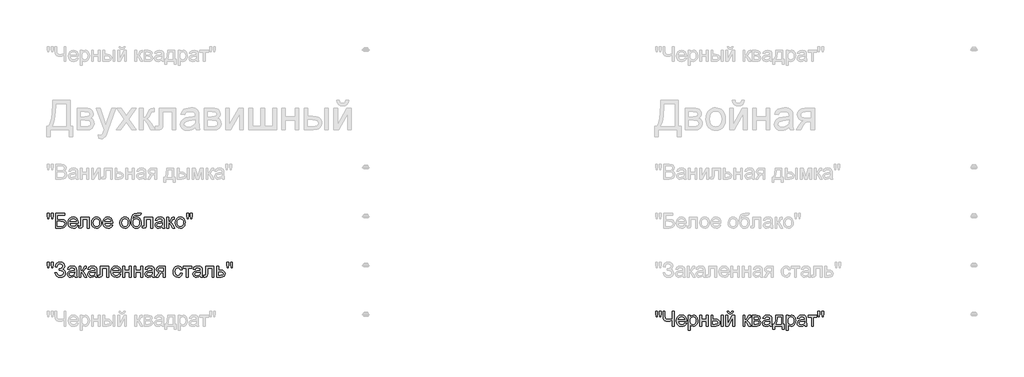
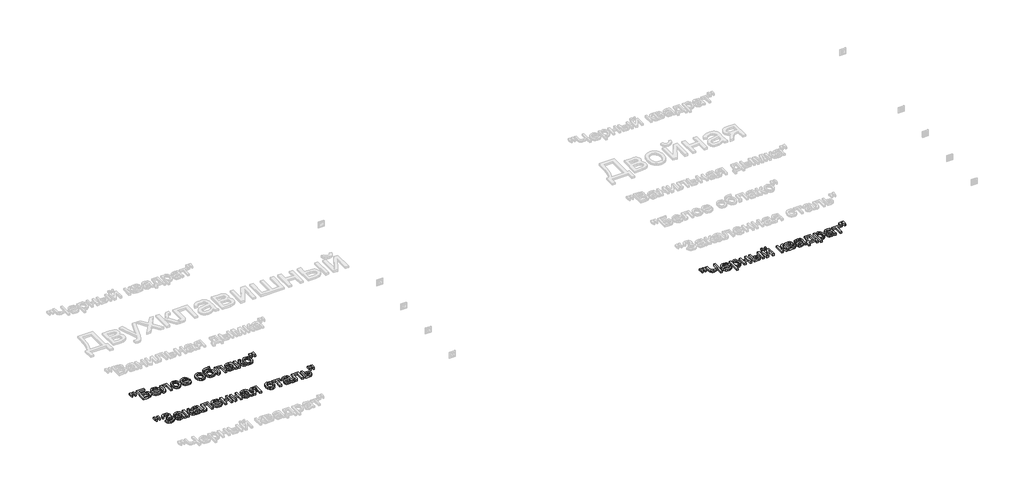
# One storey, part 133 of 168: 3 proxies.
"""IFC4 building model written with IfcOpenShell, lengths in millimetres."""

import ifcopenshell
import ifcopenshell.guid

model = None  # the IFC model being written
_history = None  # IfcOwnerHistory: only IFC2X3 demands one
_inside = {}  # id of a spatial element -> (the spatial element, [elements in it])
_under = {}  # id of a project, library or spatial element -> (it, [spatial elements below it])
_declared = {}  # id of a project -> (the project, [libraries it declares])
_typed = {}  # id of a type object -> (the type object, [elements of that type])
_made_of = {}  # id of a material, layer set ... -> (it, [elements and type objects made of it])


def new_model(schema):
    """Start an empty IFC model of exactly this schema.

    Asked for "IFC4X3", IfcOpenShell would pick the latest addendum, in which some entities
    have other attributes; the version numbers below select the first issue.
    IFC2X3 requires an IfcOwnerHistory on every rooted entity: one is made here for all.
    """
    global model, _history
    if schema == "IFC4X3":
        model = ifcopenshell.file(schema_version=(4, 3, 0, 0))
    else:
        model = ifcopenshell.file(schema=schema)
    _inside.clear()
    _under.clear()
    _declared.clear()
    _typed.clear()
    _made_of.clear()
    _history = None
    if model.schema == "IFC2X3":
        org = make("IfcOrganization", Name="unknown")
        user = make(
            "IfcPersonAndOrganization",
            ThePerson=make("IfcPerson", FamilyName="unknown"),
            TheOrganization=org,
        )
        app = make(
            "IfcApplication",
            ApplicationDeveloper=org,
            Version="unknown",
            ApplicationFullName="unknown",
            ApplicationIdentifier="unknown",
        )
        _history = make(
            "IfcOwnerHistory",
            OwningUser=user,
            OwningApplication=app,
            ChangeAction="ADDED",
            CreationDate=0,
        )
    return model


def make(cls, **values):
    """One entity of the class cls with the attributes given. An attribute that is None is left unset."""
    return model.create_entity(
        cls, **{name: value for name, value in values.items() if value is not None}
    )


def rooted(cls, **values):
    """An entity with a GlobalId (a new one), such as an element, a storey or a relation."""
    return make(cls, GlobalId=ifcopenshell.guid.new(), OwnerHistory=_history, **values)


def si_unit(unit_type, name, prefix=None):
    """IfcSIUnit, for example si_unit("LENGTHUNIT", "METRE", prefix="MILLI")."""
    return make("IfcSIUnit", UnitType=unit_type, Prefix=prefix, Name=name)


def assignment(units):
    """IfcUnitAssignment: the units of a project."""
    return None if units is None else make("IfcUnitAssignment", Units=units)


def point(xyz):
    """IfcCartesianPoint."""
    return None if xyz is None else make("IfcCartesianPoint", Coordinates=xyz)


def direction(xyz):
    """IfcDirection."""
    return None if xyz is None else make("IfcDirection", DirectionRatios=xyz)


def frame(location, z_axis=None, x_axis=None):
    """IfcAxis2Placement3D, a coordinate frame: its origin and axes. An axis left out is left unset."""
    return make(
        "IfcAxis2Placement3D",
        Location=point(location),
        Axis=direction(z_axis),
        RefDirection=direction(x_axis),
    )


def origin():
    """The frame at (0, 0, 0) with its axes left unset."""
    return frame((0.0, 0.0, 0.0))


def origin_with_axes():
    """The frame at (0, 0, 0) with the z axis (0, 0, 1) and the x axis (1, 0, 0) written out."""
    return frame((0.0, 0.0, 0.0), z_axis=(0.0, 0.0, 1.0), x_axis=(1.0, 0.0, 0.0))


def place(relative_to, where):
    """IfcLocalPlacement: puts the frame where relative to a parent placement (None: the world)."""
    return make(
        "IfcLocalPlacement", PlacementRelTo=relative_to, RelativePlacement=where
    )


def context(
    kind, dimensions, precision=None, world=None, true_north=None, identifier=None
):
    """IfcGeometricRepresentationContext, for example the 3D "Model" context."""
    return make(
        "IfcGeometricRepresentationContext",
        ContextIdentifier=identifier,
        ContextType=kind,
        CoordinateSpaceDimension=dimensions,
        Precision=precision,
        WorldCoordinateSystem=world,
        TrueNorth=true_north,
    )


def project(units=None, contexts=None):
    """IfcProject with its units and contexts."""
    return rooted(
        "IfcProject",
        Name="project",
        RepresentationContexts=contexts,
        UnitsInContext=assignment(units),
    )


def spatial(cls, under=None, at=None, **own):
    """A site, building, storey or space (cls), placed at a placement, below another one or the project."""
    s = rooted(cls, ObjectPlacement=at, **own)
    if under is not None:
        _under.setdefault(under.id(), (under, []))[1].append(s)
    return s


def polyline(points):
    """IfcPolyline through the points."""
    return make("IfcPolyline", Points=[point(p) for p in points])


def outline(outer, holes=None, kind="AREA"):
    """IfcArbitraryClosedProfileDef: a profile drawn as a closed curve; with holes, ...WithVoids."""
    if holes is None:
        return make("IfcArbitraryClosedProfileDef", ProfileType=kind, OuterCurve=outer)
    return make(
        "IfcArbitraryProfileDefWithVoids",
        ProfileType=kind,
        OuterCurve=outer,
        InnerCurves=holes,
    )


def extrude(swept, where, along, depth):
    """IfcExtrudedAreaSolid: the profile swept, set in the frame where, extruded along a direction by depth."""
    return make(
        "IfcExtrudedAreaSolid",
        SweptArea=swept,
        Position=where,
        ExtrudedDirection=direction(along),
        Depth=depth,
    )


def shape(context_of_items, identifier, shape_type, items):
    """IfcShapeRepresentation: the items that make up one representation, for example the "Body"."""
    return make(
        "IfcShapeRepresentation",
        ContextOfItems=context_of_items,
        RepresentationIdentifier=identifier,
        RepresentationType=shape_type,
        Items=items,
    )


def made_of(thing, what):
    """Note that an element or type object is made of a material, layer set ...; save() writes the relation."""
    if what is not None:
        _made_of.setdefault(what.id(), (what, []))[1].append(thing)
    return thing


def element(
    cls,
    number,
    at=None,
    inside=None,
    cuts=None,
    type_object=None,
    material=None,
    context=None,
    identifier="Body",
    shape_type=None,
    held_by="IfcProductDefinitionShape",
    body=None,
    shapes=None,
    **own,
):
    """One element of the class cls, such as IfcWall. Its Tag is "e" and its number.

    at: its placement. inside: the storey or other place that contains it. cuts: it is an
    opening in that element (IfcRelVoidsElement). A single representation is given by context,
    identifier, shape_type and body (its items); several are given by shapes. held_by: the class
    of the entity that holds the representations. save() writes the other relations.
    """
    e = rooted(cls, Tag="e%d" % number, ObjectPlacement=at, **own)
    if body is not None:
        shapes = [shape(context, identifier, shape_type, body)]
    if shapes is not None:
        e.Representation = make(held_by, Representations=shapes)
    if inside is not None:
        _inside.setdefault(inside.id(), (inside, []))[1].append(e)
    if cuts is not None:
        rooted(
            "IfcRelVoidsElement", RelatingBuildingElement=cuts, RelatedOpeningElement=e
        )
    if type_object is not None:
        _typed.setdefault(type_object.id(), (type_object, []))[1].append(e)
    return made_of(e, material)


def aggregate(whole, parts):
    """IfcRelAggregates: a whole, such as a stair, and the parts it consists of."""
    return rooted("IfcRelAggregates", RelatingObject=whole, RelatedObjects=parts)


def save(model, path):
    """Write the relations noted so far, then the file.

    IfcRelAggregates (storeys below a building ...), IfcRelContainedInSpatialStructure (elements
    in a storey), IfcRelDefinesByType, IfcRelAssociatesMaterial and IfcRelDeclares: one each for
    every whole, place, type object, material and project.
    """
    for whole, parts in _under.values():
        aggregate(whole, parts)
    for where, things in _inside.values():
        rooted(
            "IfcRelContainedInSpatialStructure",
            RelatedElements=things,
            RelatingStructure=where,
        )
    for kind, things in _typed.values():
        rooted("IfcRelDefinesByType", RelatedObjects=things, RelatingType=kind)
    for what, things in _made_of.values():
        rooted("IfcRelAssociatesMaterial", RelatedObjects=things, RelatingMaterial=what)
    for by, libraries in _declared.values():
        rooted("IfcRelDeclares", RelatingContext=by, RelatedDefinitions=libraries)
    model.write(path)


model = new_model("IFC4")

# Units and contexts
model_context = context("Model", 3, world=origin())
ifc_project = project(units=[si_unit("LENGTHUNIT", "METRE", prefix="MILLI")], contexts=[model_context])

# Site, building, storey
site = spatial("IfcSite", under=ifc_project)
building = spatial("IfcBuilding", under=site)
storey = spatial("IfcBuildingStorey", under=building, Name="Этаж 01", Elevation=0.0)

# Proxies
placement = place(None, origin())
element("IfcBuildingElementProxy", 1, Name="150", ObjectType="150", at=placement, inside=storey, context=model_context, shape_type="SweptSolid", body=[
    extrude(outline(polyline([(71080.1485789, -24451.873446), (71075.550054, -24422.7739802), (71075.550054, -24397.7212163), (71094.3856121, -24397.7212163), (71094.3856121, -24422.7739802), (71090.2653338, -24451.873446), (71080.1485789, -24451.873446)])), origin_with_axes(), (0.0, 0.0, 1.0), 20.0),
    extrude(outline(polyline([(71117.7093306, -24451.873446), (71113.2211703, -24422.7739802), (71113.2211703, -24397.7212163), (71132.0567284, -24397.7212163), (71132.0567284, -24422.7739802), (71127.6421445, -24451.873446), (71117.7093306, -24451.873446)])), origin_with_axes(), (0.0, 0.0, 1.0), 20.0),
    extrude(outline(polyline([(71157.9556209, -24397.7212163), (71252.1334117, -24397.7212163), (71252.1334117, -24416.5567745), (71176.791179, -24416.5567745), (71176.791179, -24461.2912251), (71212.0710624, -24461.2912251), (71243.157091, -24465.1171979), (71253.5589544, -24470.6446248), (71261.6615553, -24479.5749603), (71266.8762826, -24491.0712726), (71268.614525, -24504.2966303), (71263.6665122, -24525.7625448), (71248.8960501, -24542.0781113), (71235.6247071, -24546.823789), (71215.4555767, -24548.4056816), (71157.9556209, -24548.4056816), (71157.9556209, -24397.7212163)]), holes=[polyline([(71176.791179, -24529.5701234), (71217.1478339, -24529.5701234), (71231.4124583, -24528.015822), (71241.6119866, -24523.3529177), (71247.7372218, -24515.5814105), (71249.7789669, -24504.7013005), (71245.1068655, -24489.9492325), (71232.102237, -24482.0765578), (71203.7201411, -24480.1267833), (71176.791179, -24480.1267833), (71176.791179, -24529.5701234)])]), origin_with_axes(), (0.0, 0.0, 1.0), 20.0),
    extrude(outline(polyline([(71369.6349209, -24515.4434548), (71388.1025971, -24517.7978996), (71381.4485315, -24531.713036), (71370.8305374, -24542.1148995), (71356.4877381, -24548.5988196), (71338.6592569, -24550.7601263), (71316.5587461, -24547.0307226), (71299.5534008, -24535.8425114), (71288.710079, -24517.9220597), (71285.0956384, -24493.9959345), (71288.7468672, -24469.2650674), (71299.7005536, -24450.7698), (71316.4759726, -24439.2366995), (71337.5923991, -24435.3923327), (71358.0512366, -24439.2275025), (71374.3989927, -24450.7330118), (71385.1181544, -24469.191491), (71388.6912083, -24493.8855699), (71388.5808437, -24498.9623414), (71303.9311966, -24498.9623414), (71307.1915508, -24513.0614189), (71314.7653213, -24523.4264941), (71325.6960151, -24529.8000497), (71339.0271389, -24531.9245682), (71357.4948151, -24527.9882308), (71369.6349209, -24515.4434548)]), holes=[polyline([(71303.9311966, -24480.1267833), (71369.8556501, -24480.1267833), (71367.3080673, -24470.1755753), (71362.3140692, -24463.0570587), (71351.3327917, -24456.4351828), (71337.5188227, -24454.2278908), (71324.8222954, -24455.9891259), (71314.3238629, -24461.272831), (71307.0260039, -24469.5087892), (71303.9311966, -24480.1267833)])]), origin_with_axes(), (0.0, 0.0, 1.0), 20.0),
    extrude(outline(polyline([(71416.9445455, -24437.7467774), (71501.7045572, -24437.7467774), (71501.7045572, -24548.295317), (71482.868999, -24548.295317), (71482.868999, -24456.5823356), (71435.7801036, -24456.5823356), (71435.7801036, -24509.3734019), (71434.5109108, -24533.72719), (71427.539547, -24544.0094917), (71411.0584336, -24548.4056816), (71395.7545426, -24547.4491884), (71395.7545426, -24529.5701234), (71404.1790403, -24529.5701234), (71412.6955084, -24528.4112951), (71416.0984169, -24524.7324752), (71416.9445455, -24508.3065441), (71416.9445455, -24437.7467774)])), origin_with_axes(), (0.0, 0.0, 1.0), 20.0),
    extrude(outline(polyline([(71525.2490049, -24493.0762295), (71529.323298, -24466.3955878), (71541.5461773, -24447.6428031), (71556.6477332, -24438.4549503), (71574.7291332, -24435.3923327), (71594.516586, -24439.1217364), (71610.3217163, -24450.3099476), (71620.6821929, -24468.0740494), (71624.1356852, -24491.5311251), (71622.6089749, -24510.5598213), (71618.0288441, -24525.0451749), (71610.5286499, -24535.8930952), (71600.2417496, -24544.0094917), (71588.0234688, -24549.0724677), (71574.7291332, -24550.7601263), (71554.7025571, -24547.0445182), (71538.915821, -24535.8976937), (71528.6657089, -24517.7611114), (71525.2490049, -24493.0762295)]), holes=[polyline([(71544.084563, -24493.0394413), (71546.2642638, -24510.0861732), (71552.8033663, -24522.2308776), (71562.6442097, -24529.5011455), (71574.7291332, -24531.9245682), (71586.7588745, -24529.48735), (71596.5813237, -24522.1756953), (71603.1204262, -24509.8700426), (71605.300127, -24492.4508301), (71603.1066306, -24475.9007388), (71596.5261414, -24463.9215814), (71586.6898966, -24456.6513134), (71574.7291332, -24454.2278908), (71562.6442097, -24456.6421164), (71552.8033663, -24463.8847932), (71546.2642638, -24476.0019064), (71544.084563, -24493.0394413)])]), origin_with_axes(), (0.0, 0.0, 1.0), 20.0),
    extrude(outline(polyline([(71722.8016363, -24515.4434548), (71741.2693124, -24517.7978996), (71734.6152469, -24531.713036), (71723.9972528, -24542.1148995), (71709.6544535, -24548.5988196), (71691.8259723, -24550.7601263), (71669.7254614, -24547.0307226), (71652.7201162, -24535.8425114), (71641.8767944, -24517.9220597), (71638.2623538, -24493.9959345), (71641.9135826, -24469.2650674), (71652.867269, -24450.7698), (71669.642688, -24439.2366995), (71690.7591145, -24435.3923327), (71711.217952, -24439.2275025), (71727.5657081, -24450.7330118), (71738.2848698, -24469.191491), (71741.8579236, -24493.8855699), (71741.747559, -24498.9623414), (71657.0979119, -24498.9623414), (71660.3582661, -24513.0614189), (71667.9320367, -24523.4264941), (71678.8627305, -24529.8000497), (71692.1938543, -24531.9245682), (71710.6615304, -24527.9882308), (71722.8016363, -24515.4434548)]), holes=[polyline([(71657.0979119, -24480.1267833), (71723.0223655, -24480.1267833), (71720.4747827, -24470.1755753), (71715.4807846, -24463.0570587), (71704.499507, -24456.4351828), (71690.6855381, -24454.2278908), (71677.9890107, -24455.9891259), (71667.4905783, -24461.272831), (71660.1927192, -24469.5087892), (71657.0979119, -24480.1267833)])]), origin_with_axes(), (0.0, 0.0, 1.0), 20.0),
    extrude(outline(polyline([(71814.8457115, -24493.0762295), (71818.9200046, -24466.3955878), (71831.1428839, -24447.6428031), (71846.2444398, -24438.4549503), (71864.3258398, -24435.3923327), (71884.1132926, -24439.1217364), (71899.9184229, -24450.3099476), (71910.2788995, -24468.0740494), (71913.7323918, -24491.5311251), (71912.2056815, -24510.5598213), (71907.6255507, -24525.0451749), (71900.1253565, -24535.8930952), (71889.8384562, -24544.0094917), (71877.6201754, -24549.0724677), (71864.3258398, -24550.7601263), (71844.2992637, -24547.0445182), (71828.5125276, -24535.8976937), (71818.2624155, -24517.7611114), (71814.8457115, -24493.0762295)]), holes=[polyline([(71833.6812696, -24493.0394413), (71835.8609704, -24510.0861732), (71842.4000729, -24522.2308776), (71852.2409163, -24529.5011455), (71864.3258398, -24531.9245682), (71876.3555811, -24529.48735), (71886.1780303, -24522.1756953), (71892.7171328, -24509.8700426), (71894.8968336, -24492.4508301), (71892.7033372, -24475.9007388), (71886.122848, -24463.9215814), (71876.2866032, -24456.6513134), (71864.3258398, -24454.2278908), (71852.2409163, -24456.6421164), (71842.4000729, -24463.8847932), (71835.8609704, -24476.0019064), (71833.6812696, -24493.0394413)])]), origin_with_axes(), (0.0, 0.0, 1.0), 20.0),
    extrude(outline(polyline([(72012.6190721, -24395.3667716), (72029.1001855, -24395.3667716), (72024.2441431, -24410.0636573), (72014.6424231, -24415.3795521), (71991.576222, -24416.5567745), (71960.5085875, -24420.897782), (71953.3808738, -24426.5447707), (71948.5892108, -24434.8037215), (71944.560903, -24459.4150269), (71960.8764695, -24441.3888092), (71970.7954878, -24436.8914518), (71981.9009255, -24435.3923327), (72001.4998388, -24439.2045098), (72017.401538, -24450.6410414), (72027.9413572, -24468.5798871), (72031.4546302, -24491.8990071), (72029.7117893, -24509.8792396), (72024.4832664, -24524.3094109), (72007.9469707, -24543.8623389), (71996.6529935, -24549.0356795), (71981.9009255, -24550.7601263), (71964.9001788, -24548.5390388), (71952.1576662, -24541.8757762), (71942.7812738, -24531.7498242), (71935.8788879, -24519.1406689), (71931.6298508, -24500.1533594), (71930.2135052, -24470.8929452), (71933.786559, -24434.7531377), (71944.5057207, -24412.7124076), (71962.6377045, -24401.4690142), (71988.449225, -24397.7212163), (72009.4184987, -24397.2981521), (72012.6190721, -24395.3667716)]), holes=[polyline([(72012.6190721, -24491.3103959), (72010.577327, -24476.48935), (72004.4520918, -24464.6205572), (71994.6112484, -24456.8260574), (71981.4226789, -24454.2278908), (71967.6730893, -24456.9732102), (71957.473561, -24465.2091684), (71951.1551877, -24478.0344544), (71949.0490633, -24494.5477575), (71951.3759169, -24510.5552228), (71958.3564778, -24522.304454), (71968.7491442, -24529.5195396), (71981.3123143, -24531.9245682), (71993.9398638, -24529.1424606), (72003.937057, -24520.7961378), (72010.4485683, -24507.8604872), (72012.6190721, -24491.3103959)])]), origin_with_axes(), (0.0, 0.0, 1.0), 20.0),
    extrude(outline(polyline([(72064.416857, -24437.7467774), (72149.1768687, -24437.7467774), (72149.1768687, -24548.295317), (72130.3413105, -24548.295317), (72130.3413105, -24456.5823356), (72083.2524152, -24456.5823356), (72083.2524152, -24509.3734019), (72081.9832223, -24533.72719), (72075.0118585, -24544.0094917), (72058.5307451, -24548.4056816), (72043.2268541, -24547.4491884), (72043.2268541, -24529.5701234), (72051.6513518, -24529.5701234), (72060.16782, -24528.4112951), (72063.5707284, -24524.7324752), (72064.416857, -24508.3065441), (72064.416857, -24437.7467774)])), origin_with_axes(), (0.0, 0.0, 1.0), 20.0),
    extrude(outline(polyline([(72248.063549, -24534.279013), (72229.7982079, -24547.0445182), (72209.6198805, -24550.7601263), (72193.8791296, -24548.5252432), (72182.2678542, -24541.8205939), (72175.1079508, -24531.6394596), (72172.7213164, -24518.975122), (72176.3265599, -24504.0759012), (72185.7995213, -24493.2601705), (72198.9880908, -24487.079753), (72215.2852632, -24484.2470616), (72247.9531844, -24477.7723385), (72248.063549, -24473.5784838), (72246.766765, -24465.1723802), (72242.8764129, -24459.6725443), (72234.1760037, -24455.5890542), (72222.0542919, -24454.2278908), (72202.9980046, -24457.8515285), (72193.9113193, -24470.7090042), (72175.0757612, -24468.3545594), (72183.2243473, -24449.9604597), (72199.6318843, -24439.1815172), (72224.4823131, -24435.3923327), (72247.3093909, -24438.7400588), (72260.2036548, -24447.1461624), (72265.9794022, -24459.9300617), (72266.8991071, -24476.4111751), (72266.8991071, -24499.8452582), (72267.8556003, -24532.5683617), (72271.6079967, -24548.4056816), (72252.7724385, -24548.4056816), (72248.063549, -24534.279013)]), holes=[polyline([(72248.063549, -24496.6078966), (72217.6764962, -24502.383644), (72201.4712943, -24505.4370645), (72194.1320485, -24510.4034715), (72191.5568745, -24517.6507468), (72197.167075, -24527.841078), (72213.6297942, -24531.9245682), (72232.6860816, -24527.4180137), (72244.9733402, -24516.5103126), (72247.9531844, -24501.9421856), (72248.063549, -24496.6078966)])]), origin_with_axes(), (0.0, 0.0, 1.0), 20.0),
    extrude(outline(polyline([(72292.7979996, -24437.7467774), (72311.6335578, -24437.7467774), (72311.6335578, -24484.8356728), (72324.2519102, -24481.4511584), (72334.5893943, -24461.7326835), (72343.1794388, -24444.7181412), (72350.7578079, -24439.1815172), (72364.5349887, -24437.7467774), (72368.1402322, -24437.7467774), (72368.1402322, -24456.6927002), (72363.0634607, -24456.5823356), (72353.8664108, -24458.5688983), (72347.3916877, -24470.9665216), (72339.7949245, -24484.3758203), (72329.1447407, -24490.9425139), (72341.0273292, -24498.2725627), (72352.6891884, -24513.7144094), (72372.8491218, -24548.4056816), (72351.4383896, -24548.4056816), (72331.6831265, -24514.4501734), (72321.7503126, -24500.0843815), (72311.6335578, -24496.6078966), (72311.6335578, -24548.4056816), (72292.7979996, -24548.4056816), (72292.7979996, -24437.7467774)])), origin_with_axes(), (0.0, 0.0, 1.0), 20.0),
    extrude(outline(polyline([(72379.9124561, -24493.0762295), (72383.9867492, -24466.3955878), (72396.2096285, -24447.6428031), (72411.3111844, -24438.4549503), (72429.3925844, -24435.3923327), (72449.1800372, -24439.1217364), (72464.9851674, -24450.3099476), (72475.3456441, -24468.0740494), (72478.7991364, -24491.5311251), (72477.2724261, -24510.5598213), (72472.6922952, -24525.0451749), (72465.1921011, -24535.8930952), (72454.9052008, -24544.0094917), (72442.68692, -24549.0724677), (72429.3925844, -24550.7601263), (72409.3660083, -24547.0445182), (72393.5792722, -24535.8976937), (72383.3291601, -24517.7611114), (72379.9124561, -24493.0762295)]), holes=[polyline([(72398.7480142, -24493.0394413), (72400.927715, -24510.0861732), (72407.4668175, -24522.2308776), (72417.3076609, -24529.5011455), (72429.3925844, -24531.9245682), (72441.4223257, -24529.48735), (72451.2447749, -24522.1756953), (72457.7838774, -24509.8700426), (72459.9635782, -24492.4508301), (72457.7700818, -24475.9007388), (72451.1895926, -24463.9215814), (72441.3533478, -24456.6513134), (72429.3925844, -24454.2278908), (72417.3076609, -24456.6421164), (72407.4668175, -24463.8847932), (72400.927715, -24476.0019064), (72398.7480142, -24493.0394413)])]), origin_with_axes(), (0.0, 0.0, 1.0), 20.0),
    extrude(outline(polyline([(72499.8787747, -24451.873446), (72495.2802498, -24422.7739802), (72495.2802498, -24397.7212163), (72514.1158079, -24397.7212163), (72514.1158079, -24422.7739802), (72509.9955296, -24451.873446), (72499.8787747, -24451.873446)])), origin_with_axes(), (0.0, 0.0, 1.0), 20.0),
    extrude(outline(polyline([(72537.4395264, -24451.873446), (72532.9513661, -24422.7739802), (72532.9513661, -24397.7212163), (72551.7869242, -24397.7212163), (72551.7869242, -24422.7739802), (72547.3723403, -24451.873446), (72537.4395264, -24451.873446)])), origin_with_axes(), (0.0, 0.0, 1.0), 20.0),
])
element("IfcBuildingElementProxy", 2, Name="150", ObjectType="150", at=placement, inside=storey, context=model_context, shape_type="SweptSolid", body=[
    extrude(outline(polyline([(71080.1485789, -24951.873446), (71075.550054, -24922.7739802), (71075.550054, -24897.7212163), (71094.3856121, -24897.7212163), (71094.3856121, -24922.7739802), (71090.2653338, -24951.873446), (71080.1485789, -24951.873446)])), origin_with_axes(), (0.0, 0.0, 1.0), 20.0),
    extrude(outline(polyline([(71117.7093306, -24951.873446), (71113.2211703, -24922.7739802), (71113.2211703, -24897.7212163), (71132.0567284, -24897.7212163), (71132.0567284, -24922.7739802), (71127.6421445, -24951.873446), (71117.7093306, -24951.873446)])), origin_with_axes(), (0.0, 0.0, 1.0), 20.0),
    extrude(outline(polyline([(71150.8922866, -25006.0256757), (71169.7278447, -25001.3167862), (71181.2977335, -25021.7158428), (71192.2284273, -25029.3723868), (71206.2217387, -25031.9245682), (71220.398991, -25030.0069833), (71231.2193202, -25024.2542286), (71238.0757209, -25015.7883442), (71240.3611878, -25005.7313701), (71237.8641888, -24995.1961495), (71230.3731916, -24987.0613589), (71218.5779752, -24981.8604272), (71203.1683181, -24980.1267833), (71193.2722924, -24980.1267833), (71193.2722924, -24961.2912251), (71214.591054, -24959.7645148), (71227.6324708, -24951.9654165), (71233.2978535, -24937.7099892), (71231.4124583, -24928.8394346), (71225.7562726, -24921.2104817), (71216.8811195, -24915.9543677), (71205.3388219, -24914.2023297), (71186.1169876, -24919.591801), (71175.117316, -24933.8840165), (71172.0822895, -24947.1645565), (71153.2467313, -24942.455667), (71159.0983543, -24921.8542752), (71169.7002536, -24907.1389954), (71185.0524291, -24898.3098275), (71205.1548809, -24895.3667716), (71224.5468605, -24898.4247907), (71239.4598769, -24907.5988479), (71248.965028, -24920.8655924), (71252.1334117, -24936.201673), (71247.2037929, -24954.8440931), (71232.4149367, -24968.7592296), (71242.8903765, -24973.5830823), (71251.5080123, -24981.7270699), (71257.2745625, -24992.4922168), (71259.196746, -25005.1795471), (71255.508729, -25023.0172254), (71244.444678, -25037.6819214), (71227.2921799, -25047.4905751), (71205.3388219, -25050.7601263), (71186.2365493, -25047.9642232), (71170.7947025, -25039.5765137), (71159.0132816, -25025.5969979), (71150.8922866, -25006.0256757)])), origin_with_axes(), (0.0, 0.0, 1.0), 20.0),
    extrude(outline(polyline([(71353.3745367, -25034.279013), (71335.1091957, -25047.0445182), (71314.9308682, -25050.7601263), (71299.1901174, -25048.5252432), (71287.5788419, -25041.8205939), (71280.4189386, -25031.6394596), (71278.0323041, -25018.975122), (71281.6375477, -25004.0759012), (71291.110509, -24993.2601705), (71304.2990786, -24987.079753), (71320.596251, -24984.2470616), (71353.2641721, -24977.7723385), (71353.3745367, -24973.5784838), (71352.0777527, -24965.1723802), (71348.1874006, -24959.6725443), (71339.4869914, -24955.5890542), (71327.3652797, -24954.2278908), (71308.3089923, -24957.8515285), (71299.222307, -24970.7090042), (71280.3867489, -24968.3545594), (71288.5353351, -24949.9604597), (71304.9428721, -24939.1815172), (71329.7933008, -24935.3923327), (71352.6203786, -24938.7400588), (71365.5146426, -24947.1461624), (71371.2903899, -24959.9300617), (71372.2100949, -24976.4111751), (71372.2100949, -24999.8452582), (71373.1665881, -25032.5683617), (71376.9189844, -25048.4056816), (71358.0834263, -25048.4056816), (71353.3745367, -25034.279013)]), holes=[polyline([(71353.3745367, -24996.6078966), (71322.9874839, -25002.383644), (71306.782282, -25005.4370645), (71299.4430362, -25010.4034715), (71296.8678623, -25017.6507468), (71302.4780627, -25027.841078), (71318.940782, -25031.9245682), (71337.9970693, -25027.4180137), (71350.284328, -25016.5103126), (71353.2641721, -25001.9421856), (71353.3745367, -24996.6078966)])]), origin_with_axes(), (0.0, 0.0, 1.0), 20.0),
    extrude(outline(polyline([(71398.1089873, -24937.7467774), (71416.9445455, -24937.7467774), (71416.9445455, -24984.8356728), (71429.5628979, -24981.4511584), (71439.900382, -24961.7326835), (71448.4904266, -24944.7181412), (71456.0687957, -24939.1815172), (71469.8459764, -24937.7467774), (71473.4512199, -24937.7467774), (71473.4512199, -24956.6927002), (71468.3744484, -24956.5823356), (71459.1773985, -24958.5688983), (71452.7026754, -24970.9665216), (71445.1059122, -24984.3758203), (71434.4557285, -24990.9425139), (71446.3383169, -24998.2725627), (71458.0001762, -25013.7144094), (71478.1601095, -25048.4056816), (71456.7493774, -25048.4056816), (71436.9941142, -25014.4501734), (71427.0613004, -25000.0843815), (71416.9445455, -24996.6078966), (71416.9445455, -25048.4056816), (71398.1089873, -25048.4056816), (71398.1089873, -24937.7467774)])), origin_with_axes(), (0.0, 0.0, 1.0), 20.0),
    extrude(outline(polyline([(71560.5656764, -25034.279013), (71542.3003353, -25047.0445182), (71522.1220079, -25050.7601263), (71506.381257, -25048.5252432), (71494.7699816, -25041.8205939), (71487.6100782, -25031.6394596), (71485.2234438, -25018.975122), (71488.8286873, -25004.0759012), (71498.3016487, -24993.2601705), (71511.4902183, -24987.079753), (71527.7873906, -24984.2470616), (71560.4553118, -24977.7723385), (71560.5656764, -24973.5784838), (71559.2688924, -24965.1723802), (71555.3785403, -24959.6725443), (71546.6781311, -24955.5890542), (71534.5564193, -24954.2278908), (71515.500132, -24957.8515285), (71506.4134467, -24970.7090042), (71487.5778886, -24968.3545594), (71495.7264748, -24949.9604597), (71512.1340117, -24939.1815172), (71536.9844405, -24935.3923327), (71559.8115183, -24938.7400588), (71572.7057822, -24947.1461624), (71578.4815296, -24959.9300617), (71579.4012346, -24976.4111751), (71579.4012346, -24999.8452582), (71580.3577277, -25032.5683617), (71584.1101241, -25048.4056816), (71565.2745659, -25048.4056816), (71560.5656764, -25034.279013)]), holes=[polyline([(71560.5656764, -24996.6078966), (71530.1786236, -25002.383644), (71513.9734217, -25005.4370645), (71506.6341759, -25010.4034715), (71504.0590019, -25017.6507468), (71509.6692024, -25027.841078), (71526.1319217, -25031.9245682), (71545.188209, -25027.4180137), (71557.4754676, -25016.5103126), (71560.4553118, -25001.9421856), (71560.5656764, -24996.6078966)])]), origin_with_axes(), (0.0, 0.0, 1.0), 20.0),
    extrude(outline(polyline([(71614.7179061, -24937.7467774), (71699.4779178, -24937.7467774), (71699.4779178, -25048.295317), (71680.6423596, -25048.295317), (71680.6423596, -24956.5823356), (71633.5534643, -24956.5823356), (71633.5534643, -25009.3734019), (71632.2842714, -25033.72719), (71625.3129076, -25044.0094917), (71608.8317942, -25048.4056816), (71593.5279032, -25047.4491884), (71593.5279032, -25029.5701234), (71601.9524009, -25029.5701234), (71610.4688691, -25028.4112951), (71613.8717775, -25024.7324752), (71614.7179061, -25008.3065441), (71614.7179061, -24937.7467774)])), origin_with_axes(), (0.0, 0.0, 1.0), 20.0),
    extrude(outline(polyline([(71805.2072032, -25015.4434548), (71823.6748794, -25017.7978996), (71817.0208138, -25031.713036), (71806.4028197, -25042.1148995), (71792.0600204, -25048.5988196), (71774.2315392, -25050.7601263), (71752.1310283, -25047.0307226), (71735.1256831, -25035.8425114), (71724.2823613, -25017.9220597), (71720.6679207, -24993.9959345), (71724.3191495, -24969.2650674), (71735.2728359, -24950.7698), (71752.0482549, -24939.2366995), (71773.1646814, -24935.3923327), (71793.6235189, -24939.2275025), (71809.971275, -24950.7330118), (71820.6904367, -24969.191491), (71824.2634906, -24993.8855699), (71824.153126, -24998.9623414), (71739.5034789, -24998.9623414), (71742.763833, -25013.0614189), (71750.3376036, -25023.4264941), (71761.2682974, -25029.8000497), (71774.5994212, -25031.9245682), (71793.0670974, -25027.9882308), (71805.2072032, -25015.4434548)]), holes=[polyline([(71739.5034789, -24980.1267833), (71805.4279324, -24980.1267833), (71802.8803496, -24970.1755753), (71797.8863515, -24963.0570587), (71786.9050739, -24956.4351828), (71773.091105, -24954.2278908), (71760.3945777, -24955.9891259), (71749.8961452, -24961.272831), (71742.5982861, -24969.5087892), (71739.5034789, -24980.1267833)])]), origin_with_axes(), (0.0, 0.0, 1.0), 20.0),
    extrude(outline(polyline([(71843.0990487, -24937.7467774), (71861.9346069, -24937.7467774), (71861.9346069, -24980.1267833), (71911.377947, -24980.1267833), (71911.377947, -24937.7467774), (71930.2135052, -24937.7467774), (71930.2135052, -25048.4056816), (71911.377947, -25048.4056816), (71911.377947, -24998.9623414), (71861.9346069, -24998.9623414), (71861.9346069, -25048.4056816), (71843.0990487, -25048.4056816), (71843.0990487, -24937.7467774)])), origin_with_axes(), (0.0, 0.0, 1.0), 20.0),
    extrude(outline(polyline([(71958.4668424, -24937.7467774), (71977.3024005, -24937.7467774), (71977.3024005, -24980.1267833), (72026.7457407, -24980.1267833), (72026.7457407, -24937.7467774), (72045.5812988, -24937.7467774), (72045.5812988, -25048.4056816), (72026.7457407, -25048.4056816), (72026.7457407, -24998.9623414), (71977.3024005, -24998.9623414), (71977.3024005, -25048.4056816), (71958.4668424, -25048.4056816), (71958.4668424, -24937.7467774)])), origin_with_axes(), (0.0, 0.0, 1.0), 20.0),
    extrude(outline(polyline([(72144.4679792, -25034.279013), (72126.2026381, -25047.0445182), (72106.0243107, -25050.7601263), (72090.2835598, -25048.5252432), (72078.6722843, -25041.8205939), (72071.512381, -25031.6394596), (72069.1257465, -25018.975122), (72072.7309901, -25004.0759012), (72082.2039515, -24993.2601705), (72095.392521, -24987.079753), (72111.6896934, -24984.2470616), (72144.3576146, -24977.7723385), (72144.4679792, -24973.5784838), (72143.1711951, -24965.1723802), (72139.280843, -24959.6725443), (72130.5804338, -24955.5890542), (72118.4587221, -24954.2278908), (72099.4024347, -24957.8515285), (72090.3157495, -24970.7090042), (72071.4801913, -24968.3545594), (72079.6287775, -24949.9604597), (72096.0363145, -24939.1815172), (72120.8867433, -24935.3923327), (72143.7138211, -24938.7400588), (72156.608085, -24947.1461624), (72162.3838323, -24959.9300617), (72163.3035373, -24976.4111751), (72163.3035373, -24999.8452582), (72164.2600305, -25032.5683617), (72168.0124268, -25048.4056816), (72149.1768687, -25048.4056816), (72144.4679792, -25034.279013)]), holes=[polyline([(72144.4679792, -24996.6078966), (72114.0809264, -25002.383644), (72097.8757245, -25005.4370645), (72090.5364787, -25010.4034715), (72087.9613047, -25017.6507468), (72093.5715051, -25027.841078), (72110.0342244, -25031.9245682), (72129.0905118, -25027.4180137), (72141.3777704, -25016.5103126), (72144.3576146, -25001.9421856), (72144.4679792, -24996.6078966)])]), origin_with_axes(), (0.0, 0.0, 1.0), 20.0),
    extrude(outline(polyline([(72273.9624415, -24937.7467774), (72273.9624415, -25048.4056816), (72255.1268833, -25048.4056816), (72255.1268833, -25006.0256757), (72244.8629756, -25006.0256757), (72230.8834598, -25008.4169087), (72217.7500726, -25024.4933519), (72202.7404872, -25048.4056816), (72180.9618731, -25048.4056816), (72199.8710076, -25018.1657816), (72208.2219289, -25007.3132627), (72215.9106626, -25002.4940086), (72203.0347928, -24998.5484742), (72193.9848957, -24991.0528785), (72188.6322127, -24981.0832765), (72186.847985, -24969.7157228), (72189.2852032, -24956.8214589), (72196.5968579, -24946.6127335), (72208.5254316, -24939.9632664), (72224.8134069, -24937.7467774), (72273.9624415, -24937.7467774)]), holes=[polyline([(72255.1268833, -24956.5823356), (72230.2948486, -24956.5823356), (72217.4695626, -24957.672186), (72210.1900976, -24960.9417372), (72205.6835431, -24971.1504626), (72207.3436107, -24978.32876), (72212.3238132, -24983.3089625), (72235.8498668, -24987.1901176), (72255.1268833, -24987.1901176), (72255.1268833, -24956.5823356)])]), origin_with_axes(), (0.0, 0.0, 1.0), 20.0),
    extrude(outline(polyline([(72431.710241, -25008.3801205), (72450.5457991, -25010.7345653), (72445.2942837, -25027.4869916), (72435.4258491, -25040.1467308), (72421.8693976, -25048.1067774), (72405.5538311, -25050.7601263), (72385.518058, -25047.0583138), (72369.8508835, -25035.952876), (72359.7387272, -25017.9312568), (72356.3680084, -24993.4808997), (72357.8073467, -24976.7192763), (72362.1253616, -24962.192536), (72369.391031, -24950.4616989), (72379.6733328, -24942.087785), (72391.974387, -24937.0661957), (72405.2963137, -24935.3923327), (72421.2118085, -24937.6915951), (72433.9359271, -24944.5893825), (72443.0639991, -24955.7178129), (72448.1913544, -24970.7090042), (72429.3557962, -24973.063449), (72420.6185988, -24958.9551744), (72405.4434665, -24954.2278908), (72393.271171, -24956.5547444), (72383.6096701, -24963.5353053), (72377.3050924, -24975.5466524), (72375.2035665, -24992.9658649), (72377.2591072, -25010.6196021), (72383.4257291, -25022.672336), (72392.9124861, -25029.6115101), (72404.9284317, -25031.9245682), (72414.6819031, -25030.4806314), (72422.678738, -25026.1488209), (72428.4958721, -25018.8187721), (72431.710241, -25008.3801205)])), origin_with_axes(), (0.0, 0.0, 1.0), 20.0),
    extrude(outline(polyline([(72457.6091334, -24937.7467774), (72547.0780347, -24937.7467774), (72547.0780347, -24956.5823356), (72511.7613631, -24956.5823356), (72511.7613631, -25048.4056816), (72492.925805, -25048.4056816), (72492.925805, -24956.5823356), (72457.6091334, -24956.5823356), (72457.6091334, -24937.7467774)])), origin_with_axes(), (0.0, 0.0, 1.0), 20.0),
    extrude(outline(polyline([(72634.1924911, -25034.279013), (72615.9271501, -25047.0445182), (72595.7488226, -25050.7601263), (72580.0080718, -25048.5252432), (72568.3967963, -25041.8205939), (72561.236893, -25031.6394596), (72558.8502585, -25018.975122), (72562.4555021, -25004.0759012), (72571.9284634, -24993.2601705), (72585.117033, -24987.079753), (72601.4142054, -24984.2470616), (72634.0821265, -24977.7723385), (72634.1924911, -24973.5784838), (72632.8957071, -24965.1723802), (72629.005355, -24959.6725443), (72620.3049458, -24955.5890542), (72608.1832341, -24954.2278908), (72589.1269467, -24957.8515285), (72580.0402614, -24970.7090042), (72561.2047033, -24968.3545594), (72569.3532895, -24949.9604597), (72585.7608265, -24939.1815172), (72610.6112552, -24935.3923327), (72633.438333, -24938.7400588), (72646.332597, -24947.1461624), (72652.1083443, -24959.9300617), (72653.0280493, -24976.4111751), (72653.0280493, -24999.8452582), (72653.9845425, -25032.5683617), (72657.7369388, -25048.4056816), (72638.9013807, -25048.4056816), (72634.1924911, -25034.279013)]), holes=[polyline([(72634.1924911, -24996.6078966), (72603.8054383, -25002.383644), (72587.6002364, -25005.4370645), (72580.2609906, -25010.4034715), (72577.6858167, -25017.6507468), (72583.2960171, -25027.841078), (72599.7587364, -25031.9245682), (72618.8150237, -25027.4180137), (72631.1022824, -25016.5103126), (72634.0821265, -25001.9421856), (72634.1924911, -24996.6078966)])]), origin_with_axes(), (0.0, 0.0, 1.0), 20.0),
    extrude(outline(polyline([(72688.3447208, -24937.7467774), (72773.1047325, -24937.7467774), (72773.1047325, -25048.295317), (72754.2691744, -25048.295317), (72754.2691744, -24956.5823356), (72707.180279, -24956.5823356), (72707.180279, -25009.3734019), (72705.9110861, -25033.72719), (72698.9397223, -25044.0094917), (72682.4586089, -25048.4056816), (72667.1547179, -25047.4491884), (72667.1547179, -25029.5701234), (72675.5792156, -25029.5701234), (72684.0956838, -25028.4112951), (72687.4985922, -25024.7324752), (72688.3447208, -25008.3065441), (72688.3447208, -24937.7467774)])), origin_with_axes(), (0.0, 0.0, 1.0), 20.0),
    extrude(outline(polyline([(72801.3580697, -24937.7467774), (72820.1936279, -24937.7467774), (72820.1936279, -24977.7723385), (72841.8986656, -24977.7723385), (72860.7158297, -24980.1313818), (72874.6401632, -24987.2085117), (72883.2486019, -24998.433511), (72886.1180814, -25013.2361628), (72883.6762647, -25026.7144394), (72876.3508145, -25038.0865916), (72863.6542871, -25045.8259091), (72845.099239, -25048.4056816), (72801.3580697, -25048.4056816), (72801.3580697, -24937.7467774)]), holes=[polyline([(72820.1936279, -25029.5701234), (72837.7783873, -25029.5701234), (72860.4951005, -25025.615392), (72865.5856676, -25020.552416), (72867.2825233, -25013.272951), (72862.260934, -25001.6846682), (72854.1905228, -24997.8770895), (72840.0224674, -24996.6078966), (72820.1936279, -24996.6078966), (72820.1936279, -25029.5701234)])]), origin_with_axes(), (0.0, 0.0, 1.0), 20.0),
    extrude(outline(polyline([(72909.5521645, -24951.873446), (72904.9536396, -24922.7739802), (72904.9536396, -24897.7212163), (72923.7891977, -24897.7212163), (72923.7891977, -24922.7739802), (72919.6689194, -24951.873446), (72909.5521645, -24951.873446)])), origin_with_axes(), (0.0, 0.0, 1.0), 20.0),
    extrude(outline(polyline([(72947.1129162, -24951.873446), (72942.6247559, -24922.7739802), (72942.6247559, -24897.7212163), (72961.460314, -24897.7212163), (72961.460314, -24922.7739802), (72957.0457301, -24951.873446), (72947.1129162, -24951.873446)])), origin_with_axes(), (0.0, 0.0, 1.0), 20.0),
])
element("IfcBuildingElementProxy", 3, Name="150", ObjectType="150", at=placement, inside=storey, context=model_context, shape_type="SweptSolid", body=[
    extrude(outline(polyline([(77280.1485789, -25451.873446), (77275.550054, -25422.7739802), (77275.550054, -25397.7212163), (77294.3856121, -25397.7212163), (77294.3856121, -25422.7739802), (77290.2653338, -25451.873446), (77280.1485789, -25451.873446)])), origin_with_axes(), (0.0, 0.0, 1.0), 20.0),
    extrude(outline(polyline([(77317.7093306, -25451.873446), (77313.2211703, -25422.7739802), (77313.2211703, -25397.7212163), (77332.0567284, -25397.7212163), (77332.0567284, -25422.7739802), (77327.6421445, -25451.873446), (77317.7093306, -25451.873446)])), origin_with_axes(), (0.0, 0.0, 1.0), 20.0),
    extrude(outline(polyline([(77463.9056355, -25548.4056816), (77445.0700773, -25548.4056816), (77445.0700773, -25488.0730344), (77420.0908899, -25496.2400147), (77398.4226404, -25498.9623414), (77383.7395502, -25497.0999388), (77370.886673, -25491.512731), (77360.926268, -25483.0606422), (77354.9205944, -25472.6035965), (77350.8922866, -25442.6028198), (77350.8922866, -25397.7212163), (77369.7278447, -25397.7212163), (77369.7278447, -25440.064434), (77371.990319, -25460.4313009), (77378.7777418, -25472.3828673), (77388.7381468, -25478.1908043), (77400.5195677, -25480.1267833), (77422.2521966, -25477.7907326), (77445.0700773, -25470.7825806), (77445.0700773, -25397.7212163), (77463.9056355, -25397.7212163), (77463.9056355, -25548.4056816)])), origin_with_axes(), (0.0, 0.0, 1.0), 20.0),
    extrude(outline(polyline([(77571.9893657, -25515.4434548), (77590.4570418, -25517.7978996), (77583.8029763, -25531.713036), (77573.1849822, -25542.1148995), (77558.8421829, -25548.5988196), (77541.0137017, -25550.7601263), (77518.9131908, -25547.0307226), (77501.9078456, -25535.8425114), (77491.0645238, -25517.9220597), (77487.4500832, -25493.9959345), (77491.101312, -25469.2650674), (77502.0549984, -25450.7698), (77518.8304174, -25439.2366995), (77539.9468439, -25435.3923327), (77560.4056814, -25439.2275025), (77576.7534375, -25450.7330118), (77587.4725992, -25469.191491), (77591.045653, -25493.8855699), (77590.9352884, -25498.9623414), (77506.2856413, -25498.9623414), (77509.5459955, -25513.0614189), (77517.1197661, -25523.4264941), (77528.0504599, -25529.8000497), (77541.3815837, -25531.9245682), (77559.8492598, -25527.9882308), (77571.9893657, -25515.4434548)]), holes=[polyline([(77506.2856413, -25480.1267833), (77572.2100949, -25480.1267833), (77569.6625121, -25470.1755753), (77564.668514, -25463.0570587), (77553.6872364, -25456.4351828), (77539.8732675, -25454.2278908), (77527.1767401, -25455.9891259), (77516.6783077, -25461.272831), (77509.3804486, -25469.5087892), (77506.2856413, -25480.1267833)])]), origin_with_axes(), (0.0, 0.0, 1.0), 20.0),
    extrude(outline(polyline([(77609.8812112, -25590.7856874), (77609.8812112, -25437.7467774), (77628.7167693, -25437.7467774), (77628.7167693, -25456.2144536), (77641.739792, -25440.5978629), (77659.3245513, -25435.3923327), (77672.0624654, -25437.2133485), (77683.2000928, -25442.6763962), (77692.268384, -25451.4503817), (77698.7982894, -25463.2042115), (77704.0590019, -25492.2301009), (77702.5736784, -25508.3387338), (77698.1177077, -25522.7459124), (77690.8336442, -25534.7204713), (77680.8640422, -25543.5312451), (77669.2527667, -25548.952906), (77657.043683, -25550.7601263), (77640.6545401, -25545.9224781), (77628.7167693, -25533.6904018), (77628.7167693, -25590.7856874), (77609.8812112, -25590.7856874)]), holes=[polyline([(77628.7167693, -25493.9591463), (77630.7539159, -25510.8449299), (77636.8653555, -25522.6539419), (77645.8830629, -25529.6069116), (77656.6390128, -25531.9245682), (77667.5697066, -25529.5241382), (77676.8173402, -25522.3228481), (77683.1219179, -25510.0815747), (77685.2234438, -25492.5611947), (77683.1725017, -25475.7673816), (77677.0196753, -25463.7928227), (77668.0157635, -25456.6191238), (77657.411565, -25454.2278908), (77646.7659797, -25456.7708751), (77637.4171785, -25464.399828), (77630.8918716, -25476.8756261), (77628.7167693, -25493.9591463)])]), origin_with_axes(), (0.0, 0.0, 1.0), 20.0),
    extrude(outline(polyline([(77725.2490049, -25437.7467774), (77744.084563, -25437.7467774), (77744.084563, -25480.1267833), (77793.5279032, -25480.1267833), (77793.5279032, -25437.7467774), (77812.3634613, -25437.7467774), (77812.3634613, -25548.4056816), (77793.5279032, -25548.4056816), (77793.5279032, -25498.9623414), (77744.084563, -25498.9623414), (77744.084563, -25548.4056816), (77725.2490049, -25548.4056816), (77725.2490049, -25437.7467774)])), origin_with_axes(), (0.0, 0.0, 1.0), 20.0),
    extrude(outline(polyline([(77944.2123684, -25437.7467774), (77963.0479266, -25437.7467774), (77963.0479266, -25548.4056816), (77944.2123684, -25548.4056816), (77944.2123684, -25437.7467774)])), origin_with_axes(), (0.0, 0.0, 1.0), 20.0),
    extrude(outline(polyline([(77840.6167986, -25437.7467774), (77859.4523567, -25437.7467774), (77859.4523567, -25477.7723385), (77882.739287, -25477.7723385), (77902.8670307, -25480.1313818), (77917.780047, -25487.2085117), (77927.0092866, -25498.433511), (77930.0856998, -25513.2361628), (77927.5059273, -25526.7144394), (77919.7666098, -25538.0865916), (77906.3619096, -25545.8259091), (77886.785989, -25548.4056816), (77840.6167986, -25548.4056816), (77840.6167986, -25437.7467774)]), holes=[polyline([(77859.4523567, -25529.5701234), (77878.8029497, -25529.5701234), (77903.7821371, -25525.615392), (77909.3831405, -25520.552416), (77911.2501416, -25513.272951), (77905.7135176, -25501.6846682), (77896.8337659, -25497.8770895), (77881.267759, -25496.6078966), (77859.4523567, -25496.6078966), (77859.4523567, -25529.5701234)])]), origin_with_axes(), (0.0, 0.0, 1.0), 20.0),
    extrude(outline(polyline([(77991.3012638, -25437.7467774), (78010.1368219, -25437.7467774), (78010.1368219, -25522.1389071), (78056.4163769, -25437.7467774), (78080.770165, -25437.7467774), (78080.770165, -25548.4056816), (78061.9346069, -25548.4056816), (78061.9346069, -25464.5285867), (78015.9493575, -25548.4056816), (77991.3012638, -25548.4056816), (77991.3012638, -25437.7467774)])), origin_with_axes(), (0.0, 0.0, 1.0), 20.0),
    extrude(outline(polyline([(78052.5168278, -25397.7212163), (78066.6434964, -25397.7212163), (78063.6038714, -25409.7831473), (78057.5016288, -25418.672096), (78048.6126801, -25424.1489392), (78037.2129368, -25425.9745536), (78024.8429047, -25424.1627347), (78015.2503817, -25418.7272783), (78008.6928851, -25409.8521251), (78005.4279324, -25397.7212163), (78019.554601, -25397.7212163), (78024.8521017, -25408.3346119), (78035.5206796, -25411.847885), (78047.219327, -25408.4449765), (78052.5168278, -25397.7212163)])), origin_with_axes(), (0.0, 0.0, 1.0), 20.0),
    extrude(outline(polyline([(78167.8846215, -25437.7467774), (78186.7201796, -25437.7467774), (78186.7201796, -25484.8356728), (78199.3385321, -25481.4511584), (78209.6760161, -25461.7326835), (78218.2660607, -25444.7181412), (78225.8444298, -25439.1815172), (78239.6216105, -25437.7467774), (78243.2268541, -25437.7467774), (78243.2268541, -25456.6927002), (78238.1500825, -25456.5823356), (78228.9530327, -25458.5688983), (78222.4783096, -25470.9665216), (78214.8815464, -25484.3758203), (78204.2313626, -25490.9425139), (78216.113951, -25498.2725627), (78227.7758103, -25513.7144094), (78247.9357436, -25548.4056816), (78226.5250115, -25548.4056816), (78206.7697484, -25514.4501734), (78196.8369345, -25500.0843815), (78186.7201796, -25496.6078966), (78186.7201796, -25548.4056816), (78167.8846215, -25548.4056816), (78167.8846215, -25437.7467774)])), origin_with_axes(), (0.0, 0.0, 1.0), 20.0),
    extrude(outline(polyline([(78259.7079675, -25437.7467774), (78301.2050565, -25437.7467774), (78323.9585579, -25440.2667691), (78336.7608514, -25449.5006072), (78342.1135344, -25465.5954445), (78338.8761728, -25478.6736494), (78329.1273, -25487.999458), (78341.7824406, -25498.2081833), (78346.8224239, -25515.9584896), (78343.6310476, -25530.3150845), (78336.0434815, -25540.4226423), (78324.0321343, -25546.4099217), (78307.569415, -25548.4056816), (78259.7079675, -25548.4056816), (78259.7079675, -25437.7467774)]), holes=[polyline([(78278.5435256, -25480.1267833), (78297.1583546, -25480.1267833), (78312.5174279, -25479.1702901), (78319.9854324, -25475.3443173), (78323.2779762, -25468.4281358), (78321.8340394, -25462.8087383), (78317.5022289, -25459.1942977), (78297.7469658, -25456.5823356), (78278.5435256, -25456.5823356), (78278.5435256, -25480.1267833)]), polyline([(78278.5435256, -25529.5701234), (78301.6465149, -25529.5701234), (78322.137542, -25526.167215), (78326.377382, -25521.5273033), (78327.9868658, -25514.4133852), (78324.7678983, -25505.345094), (78316.3801888, -25500.0659874), (78299.8071049, -25498.9623414), (78278.5435256, -25498.9623414), (78278.5435256, -25529.5701234)])]), origin_with_axes(), (0.0, 0.0, 1.0), 20.0),
    extrude(outline(polyline([(78441.0002147, -25534.279013), (78422.7348736, -25547.0445182), (78402.5565462, -25550.7601263), (78386.8157953, -25548.5252432), (78375.2045198, -25541.8205939), (78368.0446165, -25531.6394596), (78365.6579821, -25518.975122), (78369.2632256, -25504.0759012), (78378.736187, -25493.2601705), (78391.9247565, -25487.079753), (78408.2219289, -25484.2470616), (78440.8898501, -25477.7723385), (78441.0002147, -25473.5784838), (78439.7034307, -25465.1723802), (78435.8130786, -25459.6725443), (78427.1126694, -25455.5890542), (78414.9909576, -25454.2278908), (78395.9346703, -25457.8515285), (78386.847985, -25470.7090042), (78368.0124268, -25468.3545594), (78376.161013, -25449.9604597), (78392.56855, -25439.1815172), (78417.4189788, -25435.3923327), (78440.2460566, -25438.7400588), (78453.1403205, -25447.1461624), (78458.9160679, -25459.9300617), (78459.8357728, -25476.4111751), (78459.8357728, -25499.8452582), (78460.792266, -25532.5683617), (78464.5446624, -25548.4056816), (78445.7091042, -25548.4056816), (78441.0002147, -25534.279013)]), holes=[polyline([(78441.0002147, -25496.6078966), (78410.6131619, -25502.383644), (78394.40796, -25505.4370645), (78387.0687142, -25510.4034715), (78384.4935402, -25517.6507468), (78390.1037407, -25527.841078), (78406.5664599, -25531.9245682), (78425.6227473, -25527.4180137), (78437.9100059, -25516.5103126), (78440.8898501, -25501.9421856), (78441.0002147, -25496.6078966)])]), origin_with_axes(), (0.0, 0.0, 1.0), 20.0),
    extrude(outline(polyline([(78502.2157787, -25437.7467774), (78572.8491218, -25437.7467774), (78572.8491218, -25529.5701234), (78586.9757904, -25529.5701234), (78586.9757904, -25579.0134636), (78568.1402322, -25579.0134636), (78568.1402322, -25548.4056816), (78490.4435548, -25548.4056816), (78490.4435548, -25579.0134636), (78471.6079967, -25579.0134636), (78471.6079967, -25529.5701234), (78483.3802205, -25529.5701234), (78491.9380754, -25514.105284), (78497.9299534, -25493.6464466), (78502.2157787, -25437.7467774)]), holes=[polyline([(78518.6968921, -25456.5823356), (78514.2823081, -25499.4957703), (78504.5702235, -25529.5701234), (78554.0135636, -25529.5701234), (78554.0135636, -25456.5823356), (78518.6968921, -25456.5823356)])]), origin_with_axes(), (0.0, 0.0, 1.0), 20.0),
    extrude(outline(polyline([(78608.1657933, -25590.7856874), (78608.1657933, -25437.7467774), (78627.0013514, -25437.7467774), (78627.0013514, -25456.2144536), (78640.0243741, -25440.5978629), (78657.6091334, -25435.3923327), (78670.3470475, -25437.2133485), (78681.4846749, -25442.6763962), (78690.5529661, -25451.4503817), (78697.0828715, -25463.2042115), (78702.3435841, -25492.2301009), (78700.8582605, -25508.3387338), (78696.4022898, -25522.7459124), (78689.1182263, -25534.7204713), (78679.1486243, -25543.5312451), (78667.5373488, -25548.952906), (78655.3282651, -25550.7601263), (78638.9391222, -25545.9224781), (78627.0013514, -25533.6904018), (78627.0013514, -25590.7856874), (78608.1657933, -25590.7856874)]), holes=[polyline([(78627.0013514, -25493.9591463), (78629.038498, -25510.8449299), (78635.1499376, -25522.6539419), (78644.167645, -25529.6069116), (78654.9235949, -25531.9245682), (78665.8542887, -25529.5241382), (78675.1019223, -25522.3228481), (78681.4065, -25510.0815747), (78683.5080259, -25492.5611947), (78681.4570838, -25475.7673816), (78675.3042574, -25463.7928227), (78666.3003456, -25456.6191238), (78655.6961471, -25454.2278908), (78645.0505618, -25456.7708751), (78635.7017606, -25464.399828), (78629.1764537, -25476.8756261), (78627.0013514, -25493.9591463)])]), origin_with_axes(), (0.0, 0.0, 1.0), 20.0),
    extrude(outline(polyline([(78794.1669301, -25534.279013), (78775.901589, -25547.0445182), (78755.7232616, -25550.7601263), (78739.9825107, -25548.5252432), (78728.3712352, -25541.8205939), (78721.2113319, -25531.6394596), (78718.8246974, -25518.975122), (78722.429941, -25504.0759012), (78731.9029024, -25493.2601705), (78745.0914719, -25487.079753), (78761.3886443, -25484.2470616), (78794.0565655, -25477.7723385), (78794.1669301, -25473.5784838), (78792.870146, -25465.1723802), (78788.9797939, -25459.6725443), (78780.2793847, -25455.5890542), (78768.157673, -25454.2278908), (78749.1013856, -25457.8515285), (78740.0147004, -25470.7090042), (78721.1791422, -25468.3545594), (78729.3277284, -25449.9604597), (78745.7352654, -25439.1815172), (78770.5856942, -25435.3923327), (78793.412772, -25438.7400588), (78806.3070359, -25447.1461624), (78812.0827832, -25459.9300617), (78813.0024882, -25476.4111751), (78813.0024882, -25499.8452582), (78813.9589814, -25532.5683617), (78817.7113777, -25548.4056816), (78798.8758196, -25548.4056816), (78794.1669301, -25534.279013)]), holes=[polyline([(78794.1669301, -25496.6078966), (78763.7798773, -25502.383644), (78747.5746754, -25505.4370645), (78740.2354296, -25510.4034715), (78737.6602556, -25517.6507468), (78743.270456, -25527.841078), (78759.7331753, -25531.9245682), (78778.7894627, -25527.4180137), (78791.0767213, -25516.5103126), (78794.0565655, -25501.9421856), (78794.1669301, -25496.6078966)])]), origin_with_axes(), (0.0, 0.0, 1.0), 20.0),
    extrude(outline(polyline([(78829.4836016, -25437.7467774), (78918.9525028, -25437.7467774), (78918.9525028, -25456.5823356), (78883.6358313, -25456.5823356), (78883.6358313, -25548.4056816), (78864.8002731, -25548.4056816), (78864.8002731, -25456.5823356), (78829.4836016, -25456.5823356), (78829.4836016, -25437.7467774)])), origin_with_axes(), (0.0, 0.0, 1.0), 20.0),
    extrude(outline(polyline([(78935.3232516, -25451.873446), (78930.7247267, -25422.7739802), (78930.7247267, -25397.7212163), (78949.5602848, -25397.7212163), (78949.5602848, -25422.7739802), (78945.4400065, -25451.873446), (78935.3232516, -25451.873446)])), origin_with_axes(), (0.0, 0.0, 1.0), 20.0),
    extrude(outline(polyline([(78972.8840033, -25451.873446), (78968.395843, -25422.7739802), (78968.395843, -25397.7212163), (78987.2314011, -25397.7212163), (78987.2314011, -25422.7739802), (78982.8168172, -25451.873446), (78972.8840033, -25451.873446)])), origin_with_axes(), (0.0, 0.0, 1.0), 20.0),
])

save(model, "model.ifc")
